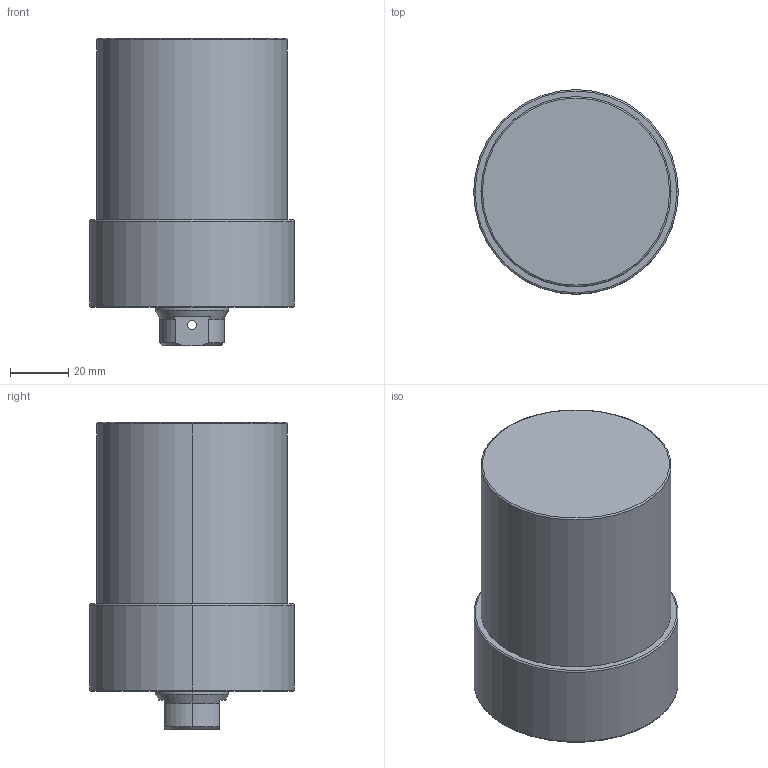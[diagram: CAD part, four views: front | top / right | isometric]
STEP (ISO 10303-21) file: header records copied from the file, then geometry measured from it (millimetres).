
FILE_DESCRIPTION (( 'STEP AP203' ), '1' );
FILE_NAME ('CLLU-065GB-045.STEP', '2020-01-06T08:44:28', ( '' ), ( '' ), 'SwSTEP 2.0', 'SolidWorks 2015', '' );
FILE_SCHEMA (( 'CONFIG_CONTROL_DESIGN' ));
Length unit declared in the file: millimetre
Products named in the file (1): CLLU-065GB-045
Bounding box: 70 x 70 x 105 mm (x, y, z)
Volume: 321662.8 mm3; surface area: 29881.1 mm2
Topology: 1 solids, 1 shells, 68 faces, 157 edges, 90 vertices
Faces by surface type: cylinder 27, cone 25, plane 10, torus 6
Entity records: 2051 total; most frequent: CARTESIAN_POINT 438, DIRECTION 352, ORIENTED_EDGE 294, AXIS2_PLACEMENT_3D 148, EDGE_CURVE 147, VERTEX_POINT 90, EDGE_LOOP 81, CIRCLE 79
